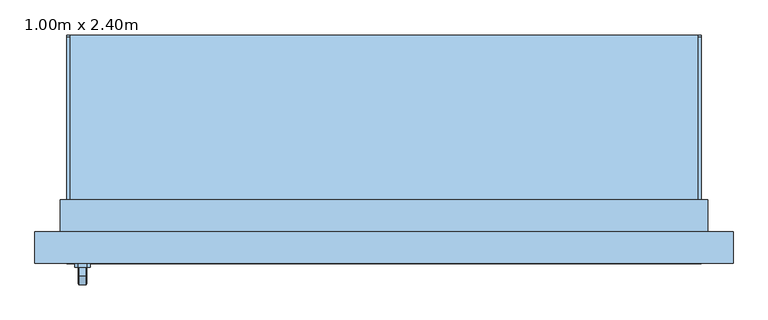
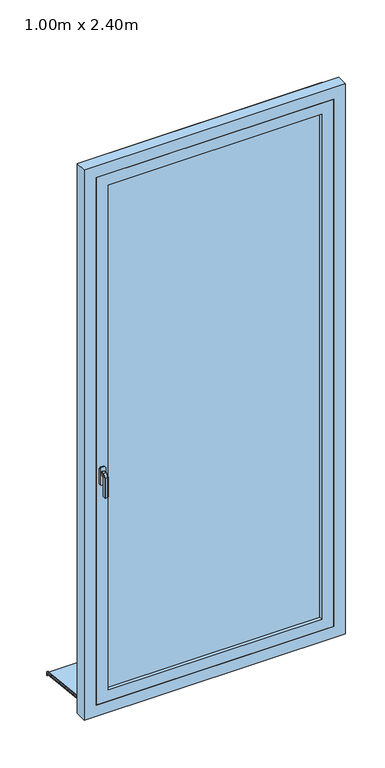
"""IFC4 building model written with IfcOpenShell, lengths in millimetres: window geometry, PF 1 Vantail - Droite : 1.00m x 2.40m."""

from ifc_helpers import new_model, si_unit, point, frame, frame_2d, origin, place, context, project, spatial, polyline, circle_curve, trimmed, segment, composite_curve, outline, extrude, faceted_brep, source, transform, mapped, element, save


def window_1_00m_x_2_40m_46732dcd(model_context):
    return source(origin(), model_context, "Body", "SolidModel", [
        faceted_brep([(-469.3539903, -181.0, 1122.0339292), (-467.9660708, -181.0, 1120.6460097), (-467.9660708, -181.0, 1109.3323012), (-469.3323012, -181.0, 1107.9660708), (-480.6676988, -181.0, 1107.9660708), (-482.0339292, -181.0, 1109.3323012), (-482.0339292, -181.0, 1120.6460097), (-480.6460097, -181.0, 1122.0339292), (-469.3539903, -193.9135489, 1122.0339292), (-467.9660708, -193.3386538, 1120.6460097), (-467.9660708, -206.6460097, 1107.3386538), (-467.9660708, -206.6460097, 1020.0), (-467.9660708, -195.3323012, 1020.0), (-467.9660708, -195.3323012, 1102.6523623), (-467.9660708, -188.6523623, 1109.3323012), (-469.3323012, -188.0864511, 1107.9660708), (-480.6676988, -188.0864511, 1107.9660708), (-482.0339292, -188.6523623, 1109.3323012), (-482.0339292, -195.3323012, 1102.6523623), (-482.0339292, -195.3323012, 1020.0), (-482.0339292, -206.6460097, 1020.0), (-482.0339292, -206.6460097, 1107.3386538), (-482.0339292, -193.3386538, 1120.6460097), (-480.6460097, -193.9135489, 1122.0339292), (-469.3539903, -208.0339292, 1107.9135489), (-469.3323012, -193.9660708, 1102.0864511), (-480.6676988, -193.9660708, 1102.0864511), (-480.6460097, -208.0339292, 1107.9135489), (-469.3539903, -208.0339292, 1020.0), (-480.6460097, -208.0339292, 1020.0), (-480.6676988, -193.9660708, 1020.0), (-469.3323012, -193.9660708, 1020.0)], [[[0, 1, 2, 3, 4, 5, 6, 7]], [[1, 0, 8, 9]], [[2, 1, 9, 10, 11, 12, 13, 14]], [[3, 2, 14, 15]], [[4, 3, 15, 16]], [[5, 4, 16, 17]], [[6, 5, 17, 18, 19, 20, 21, 22]], [[7, 6, 22, 23]], [[0, 7, 23, 8]], [[9, 8, 24, 10]], [[15, 14, 13, 25]], [[16, 15, 25, 26]], [[17, 16, 26, 18]], [[23, 22, 21, 27]], [[8, 23, 27, 24]], [[28, 29, 20, 19, 30, 31, 12, 11]], [[10, 24, 28, 11]], [[25, 13, 12, 31]], [[26, 25, 31, 30]], [[18, 26, 30, 19]], [[27, 21, 20, 29]], [[24, 27, 29, 28]]]),
        extrude(outline(polyline([(1140.0, -468.0), (1140.0, -482.0), (1135.0, -487.0), (1065.0, -487.0), (1060.0, -482.0), (1060.0, -468.0), (1065.0, -463.0), (1135.0, -463.0), (1140.0, -468.0)])), frame((0.0, -181.0, 0.0), z_axis=(0.0, 1.0, 0.0), x_axis=(0.0, 0.0, 1.0)), (0.0, 0.0, 1.0), 6.0),
        extrude(outline(polyline([(185.0288776, 10.8229907), (185.0288776, -0.2552118), (180.0288776, 0.2703094), (180.0288776, 6.0933001), (-95.0, 35.0), (-95.0, 50.0), (-90.0, 50.0), (-90.0, 39.7296906), (185.0288776, 10.8229907)])), frame((-500.0, 0.0, 0.0), z_axis=(1.0, 0.0, 0.0), x_axis=(0.0, 1.0, 0.0)), (0.0, 0.0, 1.0), 1000.0),
        extrude(outline(composite_curve([segment(polyline([(185.0288776, 10.8229907), (-90.0, 39.7296906), (-90.0, 44.757232), (181.4469915, 16.2270035)]), True, "CONTINUOUS"), segment(trimmed(circle_curve(frame_2d((181.0288776, 12.2489159)), 4.0), [point((181.4469915, 16.2270035))], [point((185.0288776, 12.2489159))], False, "CARTESIAN"), True, "CONTINUOUS"), segment(polyline([(185.0288776, 12.2489159), (185.0288776, 10.8229907)]), True, "CONTINUOUS")], self_intersect=False)), frame((-500.0, 0.0, 0.0), z_axis=(1.0, 0.0, 0.0), x_axis=(0.0, 1.0, 0.0)), (0.0, 0.0, 1.0), 5.0),
        extrude(outline(composite_curve([segment(polyline([(185.0288776, 10.8229907), (-90.0, 39.7296906), (-90.0, 44.757232), (181.4469915, 16.2270035)]), True, "CONTINUOUS"), segment(trimmed(circle_curve(frame_2d((181.0288776, 12.2489159)), 4.0), [point((181.4469915, 16.2270035))], [point((185.0288776, 12.2489159))], False, "CARTESIAN"), True, "CONTINUOUS"), segment(polyline([(185.0288776, 12.2489159), (185.0288776, 10.8229907)]), True, "CONTINUOUS")], self_intersect=False)), frame((495.0, 0.0, 0.0), z_axis=(1.0, 0.0, 0.0), x_axis=(0.0, 1.0, 0.0)), (0.0, 0.0, 1.0), 5.0),
        extrude(outline(polyline([(35.0, -510.0), (35.0, -500.0), (2435.0, -500.0), (2435.0, 500.0), (35.0, 500.0), (35.0, 510.0), (2445.0, 510.0), (2445.0, -510.0), (35.0, -510.0)])), frame((0.0, -125.0, 0.0), z_axis=(0.0, 1.0, 0.0), x_axis=(0.0, 0.0, 1.0)), (0.0, 0.0, 1.0), 50.0),
        faceted_brep([(-550.0, -175.0, 35.0), (-550.0, -125.0, 35.0), (-500.0, -125.0, 35.0), (-500.0, -95.0, 35.0), (500.0, -95.0, 35.0), (500.0, -125.0, 35.0), (550.0, -125.0, 35.0), (550.0, -175.0, 35.0), (-550.0, -175.0, 2485.0), (-550.0, -125.0, 2485.0), (550.0, -125.0, 2485.0), (500.0, -125.0, 74.3761425), (-500.0, -125.0, 74.3761425), (-485.0, -125.0, 2420.0), (-485.0, -125.0, 100.0), (485.0, -125.0, 100.0), (485.0, -125.0, 2420.0), (-500.0, -75.0, 60.9786829), (-500.0, -75.0, 45.0), (-500.0, -85.0, 45.0), (-500.0, -85.0, 50.0), (-500.0, -95.0, 50.0), (500.0, -95.0, 50.0), (500.0, -85.0, 50.0), (500.0, -85.0, 45.0), (500.0, -75.0, 45.0), (500.0, -75.0, 60.9786829), (550.0, -175.0, 2485.0), (500.0, -175.0, 2435.0), (500.0, -175.0, 85.0), (-500.0, -175.0, 85.0), (-500.0, -175.0, 2435.0), (-485.0, -135.0, 2420.0), (-485.0, -135.0, 100.0), (485.0, -135.0, 100.0), (485.0, -135.0, 2420.0), (500.0, -135.0, 2435.0), (-500.0, -135.0, 2435.0), (-500.0, -135.0, 85.0), (500.0, -135.0, 85.0)], [[[0, 1, 2, 3, 4, 5, 6, 7]], [[1, 0, 8, 9]], [[1, 9, 10, 6, 5, 11, 12, 2], [13, 14, 15, 16]], [[12, 17, 18, 19, 20, 21, 3, 2]], [[3, 21, 22, 4]], [[4, 22, 23, 24, 25, 26, 11, 5]], [[6, 10, 27, 7]], [[0, 7, 27, 8], [28, 29, 30, 31]], [[13, 32, 33, 14]], [[33, 34, 15, 14]], [[35, 16, 15, 34]], [[17, 12, 11, 26]], [[36, 37, 38, 39], [32, 35, 34, 33]], [[38, 37, 31, 30]], [[30, 29, 39, 38]], [[28, 36, 39, 29]], [[18, 17, 26, 25]], [[19, 18, 25, 24]], [[20, 19, 24, 23]], [[21, 20, 23, 22]], [[13, 16, 35, 32]], [[10, 9, 8, 27]], [[37, 36, 28, 31]]]),
        extrude(outline(polyline([(85.0, 500.0), (2435.0, 500.0), (2435.0, -500.0), (85.0, -500.0), (85.0, 500.0)]), holes=[polyline([(135.0, -450.0), (2385.0, -450.0), (2385.0, 450.0), (135.0, 450.0), (135.0, -450.0)])]), frame((0.0, -175.0, 0.0), z_axis=(0.0, 1.0, 0.0), x_axis=(0.0, 0.0, 1.0)), (0.0, 0.0, 1.0), 40.0),
        extrude(outline(polyline([(-450.0, -149.0), (450.0, -149.0), (450.0, -161.0), (-450.0, -161.0), (-450.0, -149.0)])), frame((0.0, 0.0, 135.0), z_axis=(0.0, 0.0, 1.0), x_axis=(1.0, 0.0, 0.0)), (0.0, 0.0, 1.0), 2250.0),
    ])


if __name__ == "__main__":
    model = new_model("IFC4")
    model_context = context("Model", 3, world=origin())
    ifc_project = project(units=[si_unit("LENGTHUNIT", "METRE", prefix="MILLI")], contexts=[model_context])
    site = spatial("IfcSite", under=ifc_project)
    building = spatial("IfcBuilding", under=site)
    placement = place(None, origin())
    window_1_00m_x_2_40m_shape = window_1_00m_x_2_40m_46732dcd(model_context)
    element("IfcWindow", 1, ObjectType="PF 1 Vantail - Droite : 1.00m x 2.40m", at=placement, inside=building, context=model_context, shape_type="MappedRepresentation", body=[
        mapped(window_1_00m_x_2_40m_shape, transform((0.0, 0.0, 0.0), x_axis=(1.0, 0.0, 0.0), y_axis=(0.0, 1.0, 0.0), z_axis=(0.0, 0.0, 1.0))),
    ])
    save(model, "model.ifc")
